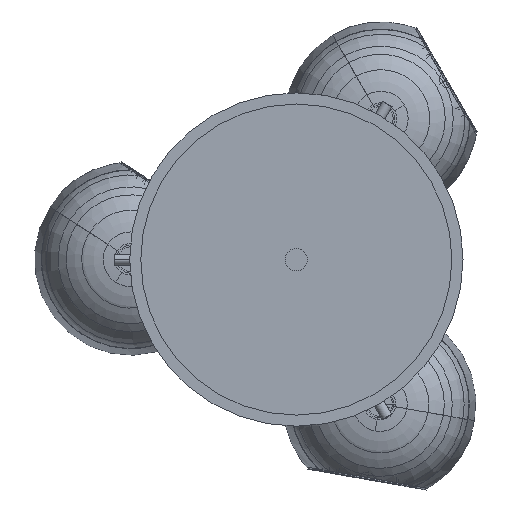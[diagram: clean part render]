
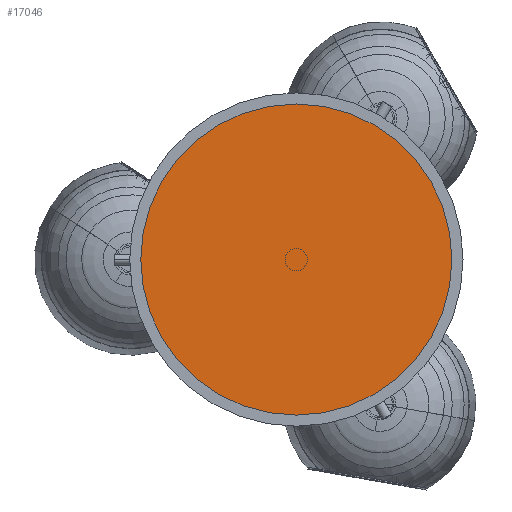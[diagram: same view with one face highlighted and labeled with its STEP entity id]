
A CAD part, front view. The second image highlights one B-rep face of the part: STEP entity #17046.
In plain terms, the highlighted planar face has unit normal (0, -1, 0) as drawn and (0, 0, -1) by its records, which use the part's own axes.
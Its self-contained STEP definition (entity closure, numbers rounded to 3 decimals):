
#195 = CARTESIAN_POINT ( 'NONE',  ( 6402.278, -19.97, -263.455 ) ) ;
#1228 = AXIS2_PLACEMENT_3D ( 'NONE', #195, #15427, #3050 ) ;
#2053 = CIRCLE ( 'NONE', #13010, 140. ) ;
#3050 = DIRECTION ( 'NONE',  ( -1., 0., 0. ) ) ;
#3201 = VERTEX_POINT ( 'NONE', #5241 ) ;
#4421 = DIRECTION ( 'NONE',  ( -1., 0., 0. ) ) ;
#5241 = CARTESIAN_POINT ( 'NONE',  ( 6262.278, -19.97, -263.455 ) ) ;
#5860 = AXIS2_PLACEMENT_3D ( 'NONE', #9861, #6964, #4421 ) ;
#6118 = CIRCLE ( 'NONE', #1228, 140. ) ;
#6964 = DIRECTION ( 'NONE',  ( 0., 0., -1. ) ) ;
#7050 = VERTEX_POINT ( 'NONE', #10912 ) ;
#8010 = CARTESIAN_POINT ( 'NONE',  ( 6402.278, -19.97, -263.455 ) ) ;
#8399 = EDGE_LOOP ( 'NONE', ( #11809, #9219 ) ) ;
#9219 = ORIENTED_EDGE ( 'NONE', *, *, #15159, .T. ) ;
#9861 = CARTESIAN_POINT ( 'NONE',  ( 6332.278, -19.97, -263.455 ) ) ;
#10639 = DIRECTION ( 'NONE',  ( 0., 0., -1. ) ) ;
#10912 = CARTESIAN_POINT ( 'NONE',  ( 6542.278, -19.97, -263.455 ) ) ;
#11809 = ORIENTED_EDGE ( 'NONE', *, *, #13519, .T. ) ;
#12403 = FACE_OUTER_BOUND ( 'NONE', #8399, .T. ) ;
#13010 = AXIS2_PLACEMENT_3D ( 'NONE', #8010, #10639, #13261 ) ;
#13261 = DIRECTION ( 'NONE',  ( -1., 0., 0. ) ) ;
#13519 = EDGE_CURVE ( 'NONE', #3201, #7050, #2053, .T. ) ;
#14104 = PLANE ( 'NONE',  #5860 ) ;
#15159 = EDGE_CURVE ( 'NONE', #7050, #3201, #6118, .T. ) ;
#15427 = DIRECTION ( 'NONE',  ( 0., 0., -1. ) ) ;
#17046 = ADVANCED_FACE ( 'NONE', ( #12403 ), #14104, .T. ) ;
